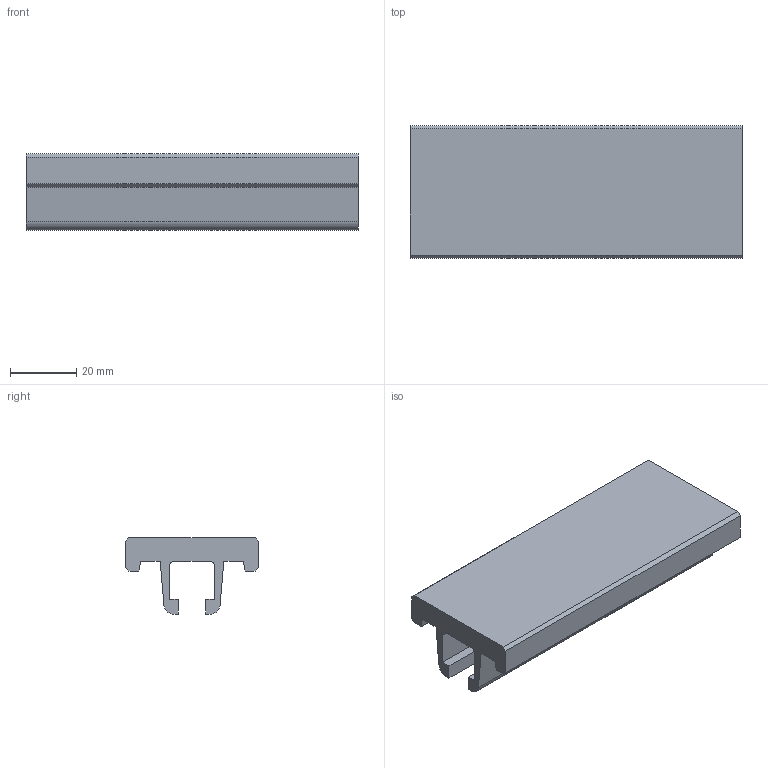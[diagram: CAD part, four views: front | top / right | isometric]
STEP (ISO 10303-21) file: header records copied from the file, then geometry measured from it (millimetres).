
FILE_DESCRIPTION (( 'STEP AP203' ), '1' );
FILE_NAME ('084.712.001.STEP', '2013-01-31T14:36:50', ( 'Alusic' ), ( 'Alusic' ), 'SwSTEP 2.0', 'SolidWorks 2011', '' );
FILE_SCHEMA (( 'CONFIG_CONTROL_DESIGN' ));
Length unit declared in the file: millimetre
Products named in the file (1): 084.712.001
Bounding box: 100 x 40 x 23 mm (x, y, z)
Volume: 39400.1 mm3; surface area: 17914.3 mm2
Topology: 1 solids, 1 shells, 30 faces, 84 edges, 56 vertices
Faces by surface type: plane 26, cylinder 4
Entity records: 1033 total; most frequent: CARTESIAN_POINT 171, ORIENTED_EDGE 168, DIRECTION 154, EDGE_CURVE 84, VECTOR 76, LINE 76, VERTEX_POINT 56, AXIS2_PLACEMENT_3D 39
